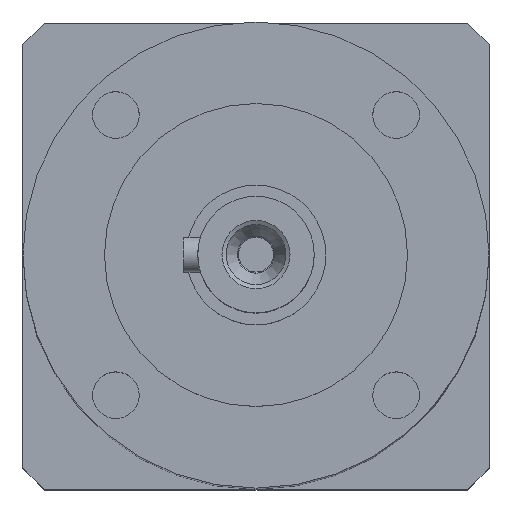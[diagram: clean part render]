
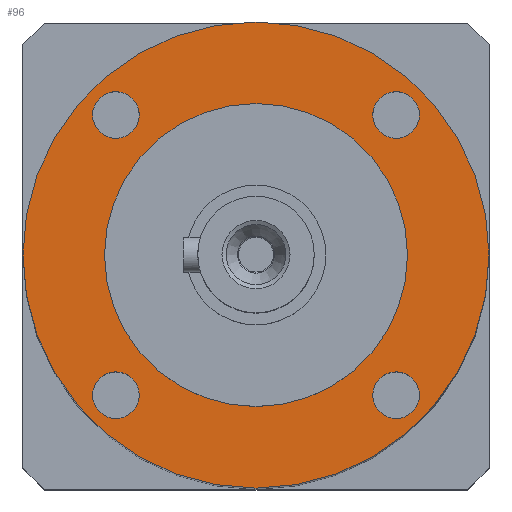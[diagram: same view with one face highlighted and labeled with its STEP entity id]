
A CAD part, top view. The second image highlights one B-rep face of the part: STEP entity #96.
In plain terms, the highlighted planar face has unit normal (0, 0, 1).
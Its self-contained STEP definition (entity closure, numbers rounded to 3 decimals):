
#96=ADVANCED_FACE('',(#218,#219,#220,#221,#222,#223),#284,.F.);
#218=FACE_OUTER_BOUND('',#224,.T.);
#219=FACE_BOUND('',#225,.T.);
#220=FACE_BOUND('',#226,.T.);
#221=FACE_BOUND('',#227,.T.);
#222=FACE_BOUND('',#228,.T.);
#223=FACE_BOUND('',#229,.T.);
#224=EDGE_LOOP('',(#230));
#225=EDGE_LOOP('',(#239));
#226=EDGE_LOOP('',(#248));
#227=EDGE_LOOP('',(#257));
#228=EDGE_LOOP('',(#266));
#229=EDGE_LOOP('',(#275));
#230=ORIENTED_EDGE('',*,*,#231,.T.);
#231=EDGE_CURVE('',#237,#237,#232,.T.);
#232=CIRCLE('',#233,2.);
#233=AXIS2_PLACEMENT_3D('',#234,#235,#236);
#234=CARTESIAN_POINT('',(-12.021,-12.021,
   64.));
#235=DIRECTION('',(0.,0.,-1.));
#236=DIRECTION('',(-1.,0.,0.));
#237=VERTEX_POINT('',#238);
#238=CARTESIAN_POINT('',(-14.021,-12.021,
   64.));
#239=ORIENTED_EDGE('',*,*,#240,.T.);
#240=EDGE_CURVE('',#246,#246,#241,.T.);
#241=CIRCLE('',#242,2.);
#242=AXIS2_PLACEMENT_3D('',#243,#244,#245);
#243=CARTESIAN_POINT('',(12.021,12.021,
   64.));
#244=DIRECTION('',(0.,0.,-1.));
#245=DIRECTION('',(1.,0.,0.));
#246=VERTEX_POINT('',#247);
#247=CARTESIAN_POINT('',(14.021,12.021,
   64.));
#248=ORIENTED_EDGE('',*,*,#249,.T.);
#249=EDGE_CURVE('',#255,#255,#250,.T.);
#250=CIRCLE('',#251,13.);
#251=AXIS2_PLACEMENT_3D('',#252,#253,#254);
#252=CARTESIAN_POINT('',(0.,0.,64.));
#253=DIRECTION('',(0.,0.,-1.));
#254=DIRECTION('',(1.,0.,0.));
#255=VERTEX_POINT('',#256);
#256=CARTESIAN_POINT('',(13.,0.,64.));
#257=ORIENTED_EDGE('',*,*,#258,.F.);
#258=EDGE_CURVE('',#264,#264,#259,.T.);
#259=CIRCLE('',#260,20.);
#260=AXIS2_PLACEMENT_3D('',#261,#262,#263);
#261=CARTESIAN_POINT('',(0.,0.,64.));
#262=DIRECTION('',(0.,0.,-1.));
#263=DIRECTION('',(0.,1.,0.));
#264=VERTEX_POINT('',#265);
#265=CARTESIAN_POINT('',(0.,20.,64.));
#266=ORIENTED_EDGE('',*,*,#267,.T.);
#267=EDGE_CURVE('',#273,#273,#268,.T.);
#268=CIRCLE('',#269,2.);
#269=AXIS2_PLACEMENT_3D('',#270,#271,#272);
#270=CARTESIAN_POINT('',(12.021,-12.021,
   64.));
#271=DIRECTION('',(0.,0.,-1.));
#272=DIRECTION('',(0.,-1.,0.));
#273=VERTEX_POINT('',#274);
#274=CARTESIAN_POINT('',(12.021,-14.021,
   64.));
#275=ORIENTED_EDGE('',*,*,#276,.T.);
#276=EDGE_CURVE('',#282,#282,#277,.T.);
#277=CIRCLE('',#278,2.);
#278=AXIS2_PLACEMENT_3D('',#279,#280,#281);
#279=CARTESIAN_POINT('',(-12.021,12.021,
   64.));
#280=DIRECTION('',(0.,0.,-1.));
#281=DIRECTION('',(0.,1.,0.));
#282=VERTEX_POINT('',#283);
#283=CARTESIAN_POINT('',(-12.021,14.021,
   64.));
#284=PLANE('',#285);
#285=AXIS2_PLACEMENT_3D('',#286,#287,#288);
#286=CARTESIAN_POINT('',(0.,0.,64.));
#287=DIRECTION('',(0.,0.,-1.));
#288=DIRECTION('',(-1.,0.,0.));
